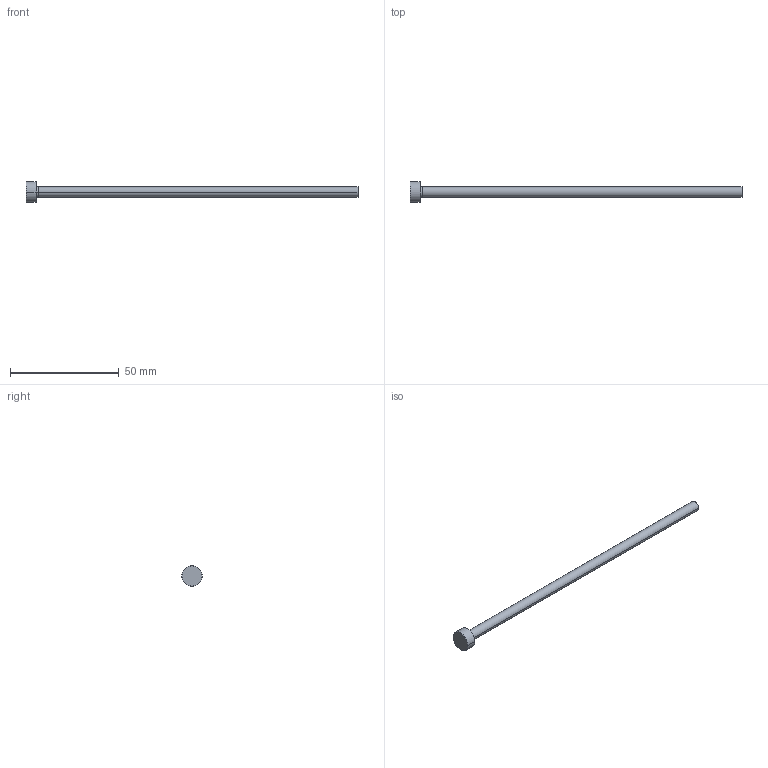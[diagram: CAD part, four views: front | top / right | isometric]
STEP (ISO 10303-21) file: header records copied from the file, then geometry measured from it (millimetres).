
FILE_DESCRIPTION (( 'STEP AP214' ), '1' );
FILE_NAME ('P13-6.STEP', '2020-03-11T18:18:21', ( '' ), ( '' ), 'SwSTEP 2.0', 'SolidWorks 2018', '' );
FILE_SCHEMA (( 'AUTOMOTIVE_DESIGN' ));
Length unit declared in the file: inch
Products named in the file (1): P13-6
Bounding box: 152.4 x 9.53 x 9.53 mm (x, y, z)
Volume: 2962.6 mm3; surface area: 2482.2 mm2
Topology: 1 solids, 1 shells, 13 faces, 24 edges, 14 vertices
Faces by surface type: cone 4, cylinder 4, plane 3, torus 2
Entity records: 366 total; most frequent: DIRECTION 68, CARTESIAN_POINT 52, ORIENTED_EDGE 48, AXIS2_PLACEMENT_3D 30, EDGE_CURVE 24, CIRCLE 16, VERTEX_POINT 14, EDGE_LOOP 14
